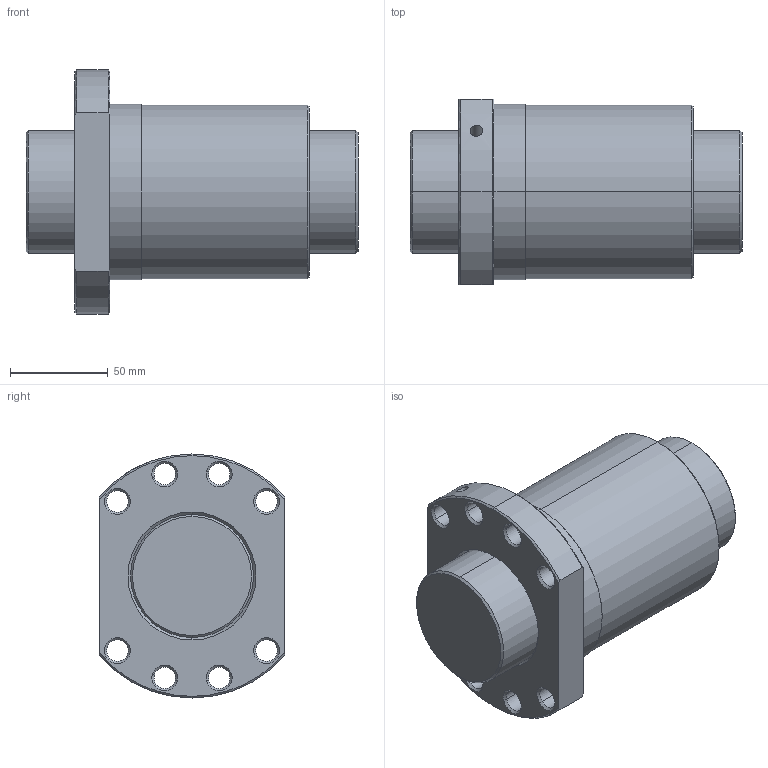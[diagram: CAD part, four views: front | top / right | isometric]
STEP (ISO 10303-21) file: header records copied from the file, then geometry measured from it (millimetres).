
FILE_DESCRIPTION(('no description'),'unknown implementation level');
FILE_NAME('R63_10T6_DEB_170_170_0_023_37.stp',' ',('HIWIN GmbH'),('CADClick - KiM GmbH - www.kimweb.de'),'unknown preprocess','ACIS','unknown authorization');
FILE_SCHEMA(('CONFIG_CONTROL_DESIGN'));
Length unit declared in the file: millimetre
Products named in the file (2): 1; 2
Bounding box: 170 x 95 x 125 mm (x, y, z)
Volume: 968076.2 mm3; surface area: 116557.8 mm2
Topology: 2 solids, 2 shells, 90 faces, 204 edges, 119 vertices
Faces by surface type: cone 52, cylinder 30, plane 8
Entity records: 2677 total; most frequent: CARTESIAN_POINT 496, DIRECTION 484, ORIENTED_EDGE 404, EDGE_CURVE 202, AXIS2_PLACEMENT_3D 200, VERTEX_POINT 119, EDGE_LOOP 111, CIRCLE 108
